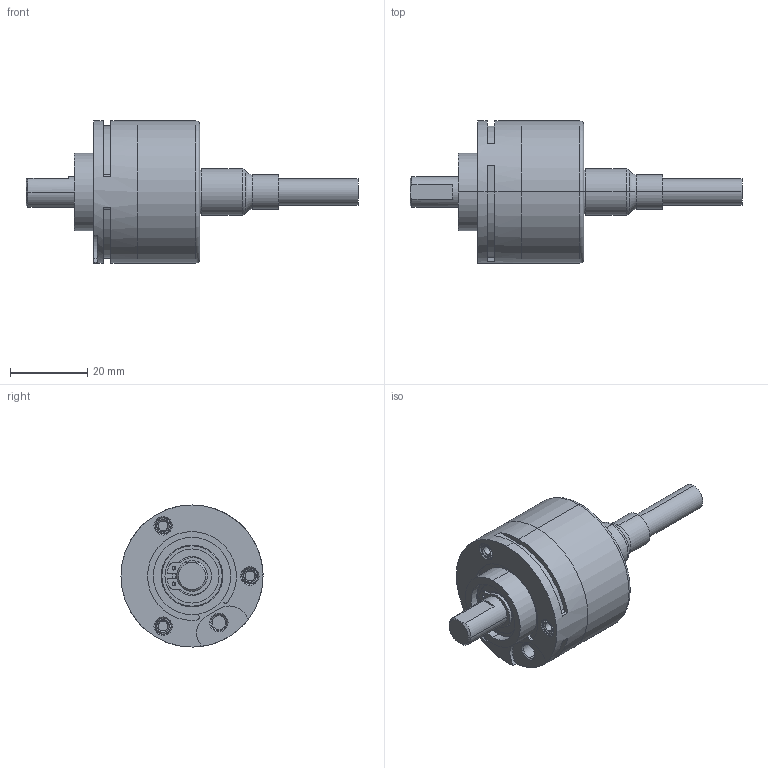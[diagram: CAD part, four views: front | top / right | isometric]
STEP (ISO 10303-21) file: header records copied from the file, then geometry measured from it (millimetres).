
FILE_DESCRIPTION (( 'STEP AP214' ), '1' );
FILE_NAME ('3700.16X1.XXXX.STEP', '2008-11-21T13:51:15', ( 'admin' ), ( 'Fritz Kübler GmbH' ), 'SwSTEP 2.0', 'SolidWorks 2008', '' );
FILE_SCHEMA (( 'AUTOMOTIVE_DESIGN' ));
Length unit declared in the file: millimetre
Products named in the file (1): 3700.16X1.XXXX
Bounding box: 86 x 36.8 x 36.8 mm (x, y, z)
Volume: 15906.1 mm3; surface area: 17953 mm2
Topology: 10 solids, 11 shells, 1105 faces, 2955 edges, 1856 vertices
Faces by surface type: plane 350, cylinder 346, bspline 171, torus 118, cone 79, sphere 41
Entity records: 51588 total; most frequent: CARTESIAN_POINT 14581, ORIENTED_EDGE 5784, DIRECTION 4832, EDGE_CURVE 2892, AXIS2_PLACEMENT_3D 2142, VERTEX_POINT 1822, CIRCLE 1207, EDGE_LOOP 1154
